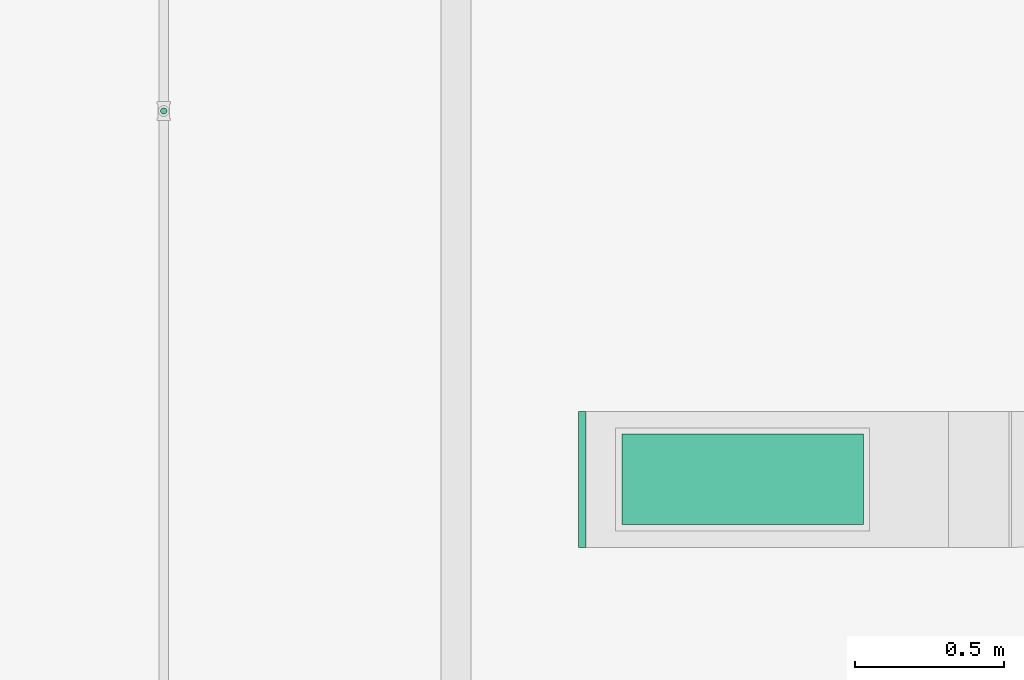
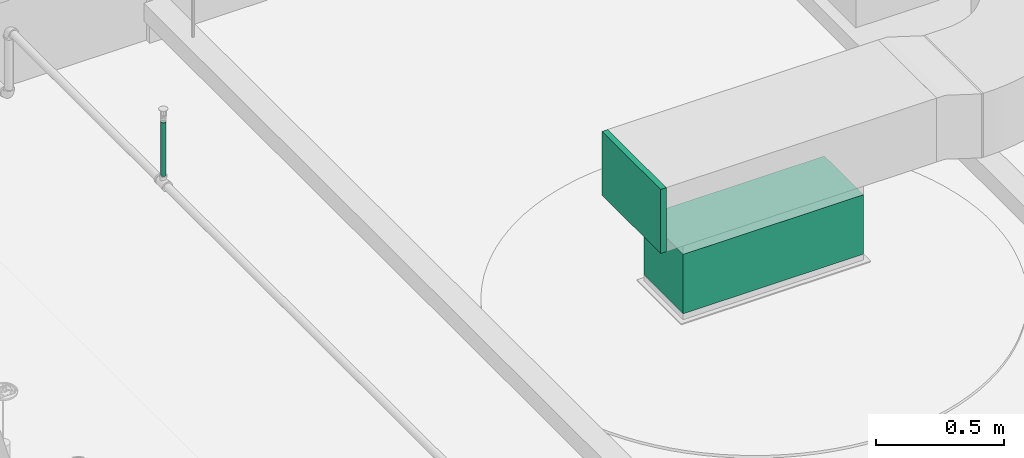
# One storey, part 39 of 108: 1 duct fitting, 1 duct segment, 1 pipe segment.
"""IFC4 building model written with IfcOpenShell, lengths in feet."""

from ifc_helpers import new_model, entity, si_unit, converted_unit, derived_unit, direction, frame, frame_2d, origin, origin_2d_with_axis, place, context, subcontext, project, spatial, rectangle, circle, extrude, source, transform, mapped, type_object, type_shapes, element, save


model = new_model("IFC4")

# Units and contexts
model_context = context("Model", 3, precision=0.0001, world=origin(), true_north=direction((6.12303176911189e-17, 1.0)))
body_context = subcontext(model_context, "Body", "Model", "MODEL_VIEW")
ifc_project = project(units=[converted_unit("LENGTHUNIT", "FOOT", entity("IfcRatioMeasure", 0.3048), si_unit("LENGTHUNIT", "METRE"), dimensions=[1, 0, 0, 0, 0, 0, 0]), converted_unit("AREAUNIT", "SQUARE FOOT", entity("IfcRatioMeasure", 0.09290304), si_unit("AREAUNIT", "SQUARE_METRE"), dimensions=[2, 0, 0, 0, 0, 0, 0]), converted_unit("VOLUMEUNIT", "CUBIC FOOT", entity("IfcRatioMeasure", 0.028316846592), si_unit("VOLUMEUNIT", "CUBIC_METRE"), dimensions=[3, 0, 0, 0, 0, 0, 0]), converted_unit("PLANEANGLEUNIT", "DEGREE", entity("IfcRatioMeasure", 0.0174532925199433), si_unit("PLANEANGLEUNIT", "RADIAN"), dimensions=[0, 0, 0, 0, 0, 0, 0]), si_unit("MASSUNIT", "GRAM", prefix="KILO"), derived_unit("MASSDENSITYUNIT", [(si_unit("MASSUNIT", "GRAM", prefix="KILO"), 1), (si_unit("LENGTHUNIT", "METRE"), -3)]), si_unit("TIMEUNIT", "SECOND"), si_unit("FREQUENCYUNIT", "HERTZ"), si_unit("THERMODYNAMICTEMPERATUREUNIT", "DEGREE_CELSIUS"), derived_unit("THERMALTRANSMITTANCEUNIT", [(si_unit("MASSUNIT", "GRAM", prefix="KILO"), 1), (si_unit("THERMODYNAMICTEMPERATUREUNIT", "KELVIN"), -1), (si_unit("TIMEUNIT", "SECOND"), -3)]), derived_unit("VOLUMETRICFLOWRATEUNIT", [(si_unit("LENGTHUNIT", "METRE"), 3), (si_unit("TIMEUNIT", "SECOND"), -1)]), si_unit("ELECTRICCURRENTUNIT", "AMPERE"), si_unit("ELECTRICVOLTAGEUNIT", "VOLT"), si_unit("POWERUNIT", "WATT"), si_unit("FORCEUNIT", "NEWTON"), si_unit("ILLUMINANCEUNIT", "LUX"), si_unit("LUMINOUSFLUXUNIT", "LUMEN"), si_unit("LUMINOUSINTENSITYUNIT", "CANDELA"), derived_unit("USERDEFINED", [(si_unit("MASSUNIT", "GRAM", prefix="KILO"), -1), (si_unit("LENGTHUNIT", "METRE"), -2), (si_unit("TIMEUNIT", "SECOND"), 3), (si_unit("LUMINOUSFLUXUNIT", "LUMEN"), 1)]), derived_unit("LINEARVELOCITYUNIT", [(si_unit("LENGTHUNIT", "METRE"), 1), (si_unit("TIMEUNIT", "SECOND"), -1)]), si_unit("PRESSUREUNIT", "PASCAL"), derived_unit("USERDEFINED", [(si_unit("LENGTHUNIT", "METRE"), -2), (si_unit("MASSUNIT", "GRAM", prefix="KILO"), 1), (si_unit("TIMEUNIT", "SECOND"), -2)])], contexts=[model_context])

# Site, building, storey
site_placement = place(None, origin())
site = spatial("IfcSite", under=ifc_project, at=site_placement, Name="Default", CompositionType="ELEMENT")
building_placement = place(site_placement, origin())
building = spatial("IfcBuilding", under=site, at=building_placement, CompositionType="ELEMENT")
storey_placement = place(building_placement, frame((0.0, 0.0, 168.0)))
storey = spatial("IfcBuildingStorey", under=building, at=storey_placement, Name="Level 15", CompositionType="ELEMENT", Elevation=168.0)

# Duct segment
duct_segment_type = type_object("IfcDuctSegmentType", Name="Rectangular Duct:Square Throat Elbows / S&D", PredefinedType="NOTDEFINED")
duct_segment_placement = place(storey_placement, frame((-45.7429529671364, -4.23329294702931, 8.65364583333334)))
element("IfcDuctSegment", 1, at=duct_segment_placement, inside=storey, type_object=duct_segment_type, Name="Rectangular Duct:Square Throat Elbows / S&D", ObjectType="Rectangular Duct:Square Throat Elbows / S&D", PredefinedType="NOTDEFINED", context=body_context, shape_type="SweptSolid", body=[
    extrude(rectangle(XDim=2.66666666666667, YDim=1.0, at=origin_2d_with_axis()), frame((1.33333333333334, 0.500000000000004, 0.0), z_axis=(0.0, 0.0, 1.0), x_axis=(-1.0, 0.0, 0.0)), (0.0, 0.0, 1.0), 0.929687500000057),
])

# Duct fitting
duct_fitting_type = type_object("IfcDuctFittingType", Name="Standard", PredefinedType="NOTDEFINED")
shared_shape = source(origin(), body_context, "Body", "SweptSolid", [
    extrude(rectangle(XDim=0.0833333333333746, YDim=1.5, at=frame_2d((-6.17561557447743e-16, 0.0), x_axis=(1.0, 0.0))), frame((0.0416666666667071, 0.0, -0.500000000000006)), (0.0, 0.0, 1.0), 1.0),
])
type_shapes(duct_fitting_type, [shared_shape])
duct_fitting_placement = place(storey_placement, frame((-46.1368423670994, -3.7333193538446, 10.4166666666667), z_axis=(0.0, 0.0, 1.0), x_axis=(-1.0, 0.0, 0.0)))
element("IfcDuctFitting", 2, at=duct_fitting_placement, inside=storey, type_object=duct_fitting_type, Name="Rectangular Endcap:Standard", ObjectType="Rectangular Endcap:Standard", PredefinedType="NOTDEFINED", context=body_context, shape_type="MappedRepresentation", body=[
    mapped(shared_shape, transform((0.0, 0.0, 0.0), scale=1.0)),
])

# Pipe segment
pipe_segment_type = type_object("IfcPipeSegmentType", Name="Pipe Types:Fire Prot Sched 10 Main", PredefinedType="NOTDEFINED")
pipe_segment_placement = place(storey_placement, frame((-50.8376141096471, 0.290685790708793, 9.82480314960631)))
element("IfcPipeSegment", 3, at=pipe_segment_placement, inside=storey, type_object=pipe_segment_type, Name="Pipe Types:Fire Prot Sched 10 Main", ObjectType="Pipe Types:Fire Prot Sched 10 Main", PredefinedType="NOTDEFINED", context=body_context, shape_type="SweptSolid", body=[
    extrude(circle(Radius=0.035, at=origin_2d_with_axis()), frame((0.0402338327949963, 0.040233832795, 0.0)), (0.0, 0.0, 1.0), 0.841863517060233),
])

save(model, "model.ifc")
